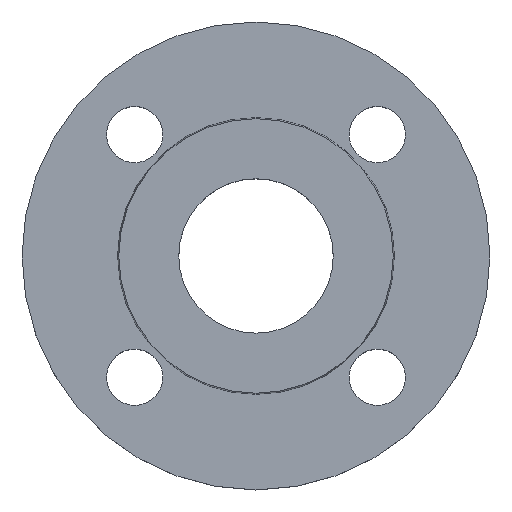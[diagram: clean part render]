
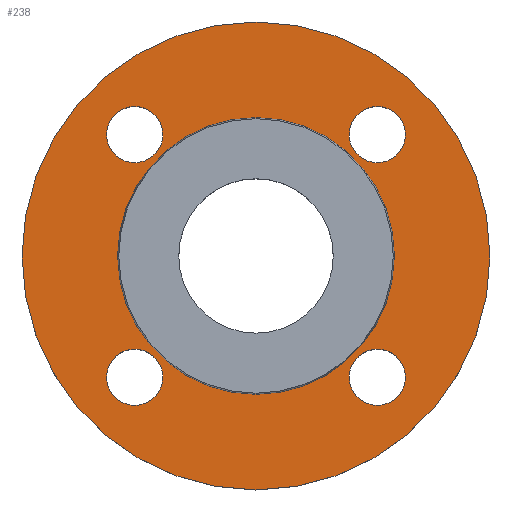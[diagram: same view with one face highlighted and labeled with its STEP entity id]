
A CAD part, top view. The second image highlights one B-rep face of the part: STEP entity #238.
In plain terms, the highlighted planar face has unit normal (0, 0, 1).
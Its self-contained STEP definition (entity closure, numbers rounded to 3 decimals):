
#4 = CIRCLE ( 'NONE', #663, 9. ) ;
#12 = CIRCLE ( 'NONE', #51, 9. ) ;
#29 = CIRCLE ( 'NONE', #289, 9. ) ;
#45 = CIRCLE ( 'NONE', #85, 9. ) ;
#51 = AXIS2_PLACEMENT_3D ( 'NONE', #89, #88, #87 ) ;
#66 = EDGE_CURVE ( 'NONE', #561, #481, #143, .T. ) ;
#83 = CIRCLE ( 'NONE', #297, 9. ) ;
#85 = AXIS2_PLACEMENT_3D ( 'NONE', #115, #118, #149 ) ;
#87 = DIRECTION ( 'NONE',  ( 1., 0., 0. ) ) ;
#88 = DIRECTION ( 'NONE',  ( 0., 0., -1. ) ) ;
#89 = CARTESIAN_POINT ( 'NONE',  ( 38.891, -38.891, -2. ) ) ;
#96 = EDGE_CURVE ( 'NONE', #292, #575, #83, .T. ) ;
#109 = CARTESIAN_POINT ( 'NONE',  ( -47.891, 38.891, -2. ) ) ;
#115 = CARTESIAN_POINT ( 'NONE',  ( 38.891, 38.891, -2. ) ) ;
#118 = DIRECTION ( 'NONE',  ( 0., 0., -1. ) ) ;
#122 = DIRECTION ( 'NONE',  ( 0., 0., -1. ) ) ;
#124 = EDGE_CURVE ( 'NONE', #575, #292, #541, .T. ) ;
#127 = CARTESIAN_POINT ( 'NONE',  ( -44.353, 0., -2. ) ) ;
#135 = CARTESIAN_POINT ( 'NONE',  ( 44.353, 0., -2. ) ) ;
#143 = CIRCLE ( 'NONE', #497, 44.353 ) ;
#149 = DIRECTION ( 'NONE',  ( 1., 0., 0. ) ) ;
#152 = CARTESIAN_POINT ( 'NONE',  ( 29.891, 38.891, -2. ) ) ;
#155 = DIRECTION ( 'NONE',  ( -1., 0., 0. ) ) ;
#157 = CARTESIAN_POINT ( 'NONE',  ( 0., 0., -2. ) ) ;
#183 = CARTESIAN_POINT ( 'NONE',  ( -29.891, -38.891, -2. ) ) ;
#184 = EDGE_CURVE ( 'NONE', #556, #558, #29, .T. ) ;
#188 = EDGE_CURVE ( 'NONE', #563, #296, #4, .T. ) ;
#190 = AXIS2_PLACEMENT_3D ( 'NONE', #157, #122, #155 ) ;
#199 = EDGE_CURVE ( 'NONE', #296, #563, #619, .T. ) ;
#202 = CIRCLE ( 'NONE', #444, 75. ) ;
#212 = CIRCLE ( 'NONE', #290, 75. ) ;
#218 = AXIS2_PLACEMENT_3D ( 'NONE', #716, #717, #718 ) ;
#219 = CARTESIAN_POINT ( 'NONE',  ( 0., 0., -2. ) ) ;
#221 = DIRECTION ( 'NONE',  ( 0., 0., -1. ) ) ;
#223 = AXIS2_PLACEMENT_3D ( 'NONE', #644, #645, #646 ) ;
#226 = DIRECTION ( 'NONE',  ( -1., 0., 0. ) ) ;
#228 = FACE_BOUND ( 'NONE', #404, .T. ) ;
#231 = FACE_BOUND ( 'NONE', #415, .T. ) ;
#233 = EDGE_CURVE ( 'NONE', #299, #559, #202, .T. ) ;
#236 = FACE_BOUND ( 'NONE', #418, .T. ) ;
#237 = FACE_BOUND ( 'NONE', #523, .T. ) ;
#238 = ADVANCED_FACE ( 'NONE', ( #228, #231, #236, #237, #239, #240 ), #244, .T. ) ;
#239 = FACE_BOUND ( 'NONE', #564, .T. ) ;
#240 = FACE_OUTER_BOUND ( 'NONE', #555, .T. ) ;
#244 = PLANE ( 'NONE',  #330 ) ;
#245 = CARTESIAN_POINT ( 'NONE',  ( 44.353, 0., -2. ) ) ;
#246 = DIRECTION ( 'NONE',  ( 0., 0., 1. ) ) ;
#247 = DIRECTION ( 'NONE',  ( 1., 0., 0. ) ) ;
#260 = CIRCLE ( 'NONE', #268, 9. ) ;
#268 = AXIS2_PLACEMENT_3D ( 'NONE', #334, #336, #337 ) ;
#289 = AXIS2_PLACEMENT_3D ( 'NONE', #687, #688, #689 ) ;
#290 = AXIS2_PLACEMENT_3D ( 'NONE', #338, #339, #340 ) ;
#292 = VERTEX_POINT ( 'NONE', #314 ) ;
#296 = VERTEX_POINT ( 'NONE', #326 ) ;
#297 = AXIS2_PLACEMENT_3D ( 'NONE', #620, #621, #622 ) ;
#299 = VERTEX_POINT ( 'NONE', #328 ) ;
#310 = EDGE_CURVE ( 'NONE', #474, #484, #260, .T. ) ;
#314 = CARTESIAN_POINT ( 'NONE',  ( -29.891, 38.891, -2. ) ) ;
#317 = EDGE_CURVE ( 'NONE', #559, #299, #212, .T. ) ;
#326 = CARTESIAN_POINT ( 'NONE',  ( -47.891, -38.891, -2. ) ) ;
#328 = CARTESIAN_POINT ( 'NONE',  ( 75., 0., -2. ) ) ;
#330 = AXIS2_PLACEMENT_3D ( 'NONE', #245, #246, #247 ) ;
#334 = CARTESIAN_POINT ( 'NONE',  ( 38.891, 38.891, -2. ) ) ;
#336 = DIRECTION ( 'NONE',  ( 0., 0., -1. ) ) ;
#337 = DIRECTION ( 'NONE',  ( 1., 0., 0. ) ) ;
#338 = CARTESIAN_POINT ( 'NONE',  ( 0., 0., -2. ) ) ;
#339 = DIRECTION ( 'NONE',  ( 0., 0., -1. ) ) ;
#340 = DIRECTION ( 'NONE',  ( -1., 0., 0. ) ) ;
#372 = CARTESIAN_POINT ( 'NONE',  ( 47.891, -38.891, -2. ) ) ;
#373 = EDGE_CURVE ( 'NONE', #484, #474, #45, .T. ) ;
#379 = CARTESIAN_POINT ( 'NONE',  ( -75., 0., -2. ) ) ;
#382 = CARTESIAN_POINT ( 'NONE',  ( 29.891, -38.891, -2. ) ) ;
#390 = CARTESIAN_POINT ( 'NONE',  ( 47.891, 38.891, -2. ) ) ;
#404 = EDGE_LOOP ( 'NONE', ( #476, #477 ) ) ;
#415 = EDGE_LOOP ( 'NONE', ( #482, #483 ) ) ;
#418 = EDGE_LOOP ( 'NONE', ( #485, #486 ) ) ;
#444 = AXIS2_PLACEMENT_3D ( 'NONE', #219, #221, #226 ) ;
#474 = VERTEX_POINT ( 'NONE', #390 ) ;
#476 = ORIENTED_EDGE ( 'NONE', *, *, #184, .T. ) ;
#477 = ORIENTED_EDGE ( 'NONE', *, *, #652, .T. ) ;
#481 = VERTEX_POINT ( 'NONE', #127 ) ;
#482 = ORIENTED_EDGE ( 'NONE', *, *, #188, .T. ) ;
#483 = ORIENTED_EDGE ( 'NONE', *, *, #199, .T. ) ;
#484 = VERTEX_POINT ( 'NONE', #152 ) ;
#485 = ORIENTED_EDGE ( 'NONE', *, *, #96, .T. ) ;
#486 = ORIENTED_EDGE ( 'NONE', *, *, #124, .T. ) ;
#487 = ORIENTED_EDGE ( 'NONE', *, *, #310, .T. ) ;
#488 = ORIENTED_EDGE ( 'NONE', *, *, #373, .T. ) ;
#490 = ORIENTED_EDGE ( 'NONE', *, *, #509, .T. ) ;
#491 = ORIENTED_EDGE ( 'NONE', *, *, #66, .T. ) ;
#492 = ORIENTED_EDGE ( 'NONE', *, *, #233, .F. ) ;
#493 = ORIENTED_EDGE ( 'NONE', *, *, #317, .F. ) ;
#497 = AXIS2_PLACEMENT_3D ( 'NONE', #595, #596, #597 ) ;
#509 = EDGE_CURVE ( 'NONE', #481, #561, #668, .T. ) ;
#523 = EDGE_LOOP ( 'NONE', ( #487, #488 ) ) ;
#541 = CIRCLE ( 'NONE', #223, 9. ) ;
#555 = EDGE_LOOP ( 'NONE', ( #492, #493 ) ) ;
#556 = VERTEX_POINT ( 'NONE', #372 ) ;
#558 = VERTEX_POINT ( 'NONE', #382 ) ;
#559 = VERTEX_POINT ( 'NONE', #379 ) ;
#561 = VERTEX_POINT ( 'NONE', #135 ) ;
#563 = VERTEX_POINT ( 'NONE', #183 ) ;
#564 = EDGE_LOOP ( 'NONE', ( #490, #491 ) ) ;
#575 = VERTEX_POINT ( 'NONE', #109 ) ;
#595 = CARTESIAN_POINT ( 'NONE',  ( 0., 0., -2. ) ) ;
#596 = DIRECTION ( 'NONE',  ( 0., 0., -1. ) ) ;
#597 = DIRECTION ( 'NONE',  ( -1., 0., 0. ) ) ;
#619 = CIRCLE ( 'NONE', #218, 9. ) ;
#620 = CARTESIAN_POINT ( 'NONE',  ( -38.891, 38.891, -2. ) ) ;
#621 = DIRECTION ( 'NONE',  ( 0., 0., -1. ) ) ;
#622 = DIRECTION ( 'NONE',  ( 1., 0., 0. ) ) ;
#644 = CARTESIAN_POINT ( 'NONE',  ( -38.891, 38.891, -2. ) ) ;
#645 = DIRECTION ( 'NONE',  ( 0., 0., -1. ) ) ;
#646 = DIRECTION ( 'NONE',  ( 1., 0., 0. ) ) ;
#652 = EDGE_CURVE ( 'NONE', #558, #556, #12, .T. ) ;
#663 = AXIS2_PLACEMENT_3D ( 'NONE', #697, #698, #699 ) ;
#668 = CIRCLE ( 'NONE', #190, 44.353 ) ;
#687 = CARTESIAN_POINT ( 'NONE',  ( 38.891, -38.891, -2. ) ) ;
#688 = DIRECTION ( 'NONE',  ( 0., 0., -1. ) ) ;
#689 = DIRECTION ( 'NONE',  ( 1., 0., 0. ) ) ;
#697 = CARTESIAN_POINT ( 'NONE',  ( -38.891, -38.891, -2. ) ) ;
#698 = DIRECTION ( 'NONE',  ( 0., 0., -1. ) ) ;
#699 = DIRECTION ( 'NONE',  ( 1., 0., 0. ) ) ;
#716 = CARTESIAN_POINT ( 'NONE',  ( -38.891, -38.891, -2. ) ) ;
#717 = DIRECTION ( 'NONE',  ( 0., 0., -1. ) ) ;
#718 = DIRECTION ( 'NONE',  ( 1., 0., 0. ) ) ;
